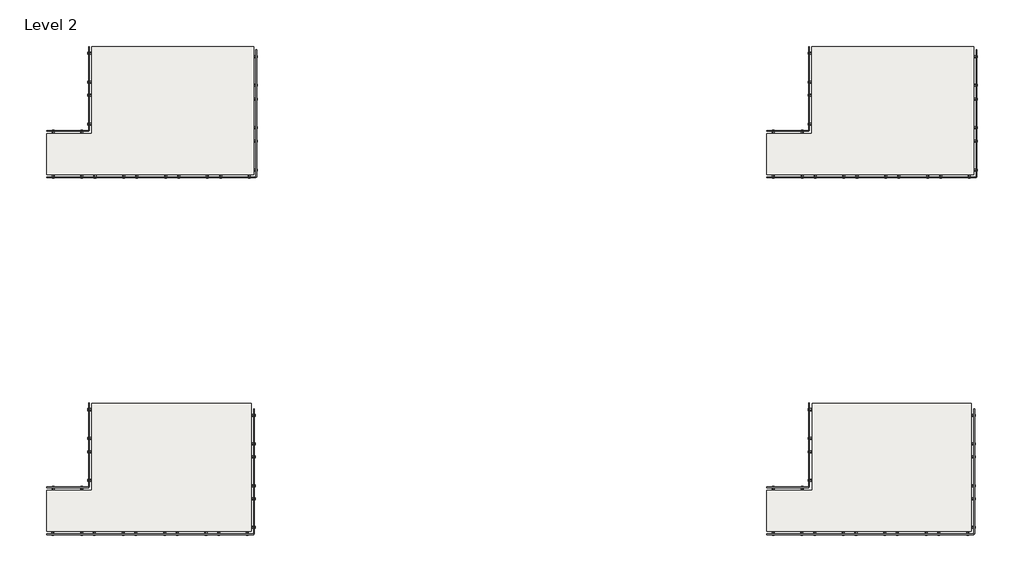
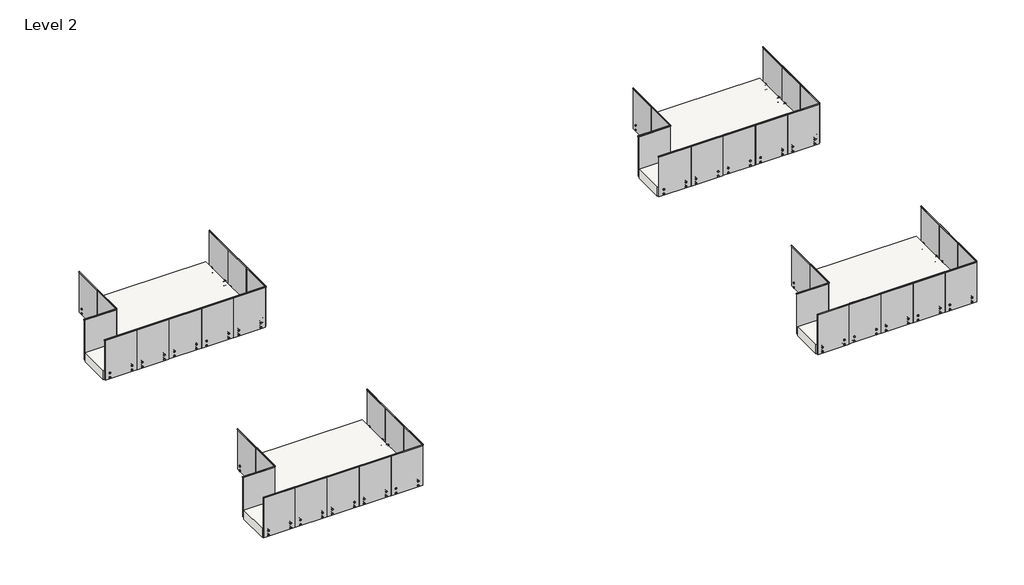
# One storey: 16 railings, 4 slabs.
"""IFC4 building model written with IfcOpenShell, lengths in millimetres."""

from ifc_helpers import new_model, si_unit, frame, origin, place, context, project, spatial, polyline, outline, extrude, transform, mapped, element, save
from components import glass_panels_viva_view_fascia_plate_straight_cd737d56, glass_panels_viva_view_fascia_plate_straight_28301afe, glass_panels_viva_view_fascia_plate_straight_fb124eda, glass_panels_viva_view_fascia_plate_straight_46a01e7d, glass_panels_viva_view_fascia_plate_straight_1b2cf416, glass_panels_viva_view_fascia_plate_straight_96c94eb8, glass_panels_viva_view_fascia_plate_straight_9ccb37f8, glass_panels_viva_view_fascia_plate_straight_29b8bf0f, glass_panels_viva_view_fascia_plate_straight_4b569ee7, glass_panels_viva_view_fascia_plate_straight_a56d03df, glass_panels_viva_view_fascia_straight_a3fbb2b1, glass_panels_viva_view_fascia_straight_cd74b2d6, glass_panels_viva_view_fascia_straight_2bf10b43, glass_panels_viva_view_fascia_straight_26263650, glass_panels_viva_view_fascia_straight_b6d9fe15, glass_panels_viva_view_fascia_straight_ef88a36e, glass_panels_viva_view_fascia_straight_90ccb595, glass_panels_viva_view_fascia_straight_26923121, glass_panels_viva_view_fascia_straight_22dfb696, glass_panels_viva_view_fascia_straight_721f6f93

model = new_model("IFC4")

# Units and contexts
model_context = context("Model", 3, world=origin())
ifc_project = project(units=[si_unit("LENGTHUNIT", "METRE", prefix="MILLI")], contexts=[model_context])

# Site, building, storey
site = spatial("IfcSite", under=ifc_project)
building = spatial("IfcBuilding", under=site)
storey = spatial("IfcBuildingStorey", under=building, Name="Level 2", Elevation=3048.0)

# Railings
placement = place(None, origin())
glass_panels_viva_view_fascia_plate_straight_shape = glass_panels_viva_view_fascia_plate_straight_cd737d56(model_context)
glass_panels_viva_view_fascia_plate_straight_2_shape = glass_panels_viva_view_fascia_plate_straight_28301afe(model_context)
element("IfcRailing", 1, ObjectType="Glass Panels-VIVA-VIEW-Fascia-Plate-Straight", at=placement, inside=storey, context=model_context, shape_type="MappedRepresentation", body=[
    mapped(glass_panels_viva_view_fascia_plate_straight_shape, transform((0.0, 0.0, 0.0), x_axis=(1.0, 0.0, 0.0), y_axis=(0.0, 1.0, 0.0), z_axis=(0.0, 0.0, 1.0))),
    mapped(glass_panels_viva_view_fascia_plate_straight_2_shape, transform((0.0, 0.0, 0.0), x_axis=(1.0, 0.0, 0.0), y_axis=(0.0, 1.0, 0.0), z_axis=(0.0, 0.0, 1.0))),
])
glass_panels_viva_view_fascia_plate_straight_3_shape = glass_panels_viva_view_fascia_plate_straight_fb124eda(model_context)
element("IfcRailing", 2, ObjectType="Glass Panels-VIVA-VIEW-Fascia-Plate-Straight", at=placement, inside=storey, context=model_context, shape_type="MappedRepresentation", body=[
    mapped(glass_panels_viva_view_fascia_plate_straight_3_shape, transform((0.0, 0.0, 0.0), x_axis=(1.0, 0.0, 0.0), y_axis=(0.0, 1.0, 0.0), z_axis=(0.0, 0.0, 1.0))),
])
glass_panels_viva_view_fascia_plate_straight_4_shape = glass_panels_viva_view_fascia_plate_straight_46a01e7d(model_context)
element("IfcRailing", 3, ObjectType="Glass Panels-VIVA-VIEW-Fascia-Plate-Straight", at=placement, inside=storey, context=model_context, shape_type="MappedRepresentation", body=[
    mapped(glass_panels_viva_view_fascia_plate_straight_4_shape, transform((0.0, 0.0, 0.0), x_axis=(1.0, 0.0, 0.0), y_axis=(0.0, 1.0, 0.0), z_axis=(0.0, 0.0, 1.0))),
])
glass_panels_viva_view_fascia_plate_straight_5_shape = glass_panels_viva_view_fascia_plate_straight_1b2cf416(model_context)
element("IfcRailing", 4, ObjectType="Glass Panels-VIVA-VIEW-Fascia-Plate-Straight", at=placement, inside=storey, context=model_context, shape_type="MappedRepresentation", body=[
    mapped(glass_panels_viva_view_fascia_plate_straight_5_shape, transform((0.0, 0.0, 0.0), x_axis=(1.0, 0.0, 0.0), y_axis=(0.0, 1.0, 0.0), z_axis=(0.0, 0.0, 1.0))),
])
glass_panels_viva_view_fascia_plate_straight_6_shape = glass_panels_viva_view_fascia_plate_straight_96c94eb8(model_context)
glass_panels_viva_view_fascia_plate_straight_7_shape = glass_panels_viva_view_fascia_plate_straight_9ccb37f8(model_context)
element("IfcRailing", 5, ObjectType="Glass Panels-VIVA-VIEW-Fascia-Plate-Straight", at=placement, inside=storey, context=model_context, shape_type="MappedRepresentation", body=[
    mapped(glass_panels_viva_view_fascia_plate_straight_6_shape, transform((0.0, 0.0, 0.0), x_axis=(1.0, 0.0, 0.0), y_axis=(0.0, 1.0, 0.0), z_axis=(0.0, 0.0, 1.0))),
    mapped(glass_panels_viva_view_fascia_plate_straight_7_shape, transform((0.0, 0.0, 0.0), x_axis=(1.0, 0.0, 0.0), y_axis=(0.0, 1.0, 0.0), z_axis=(0.0, 0.0, 1.0))),
])
glass_panels_viva_view_fascia_plate_straight_8_shape = glass_panels_viva_view_fascia_plate_straight_29b8bf0f(model_context)
element("IfcRailing", 6, ObjectType="Glass Panels-VIVA-VIEW-Fascia-Plate-Straight", at=placement, inside=storey, context=model_context, shape_type="MappedRepresentation", body=[
    mapped(glass_panels_viva_view_fascia_plate_straight_8_shape, transform((0.0, 0.0, 0.0), x_axis=(1.0, 0.0, 0.0), y_axis=(0.0, 1.0, 0.0), z_axis=(0.0, 0.0, 1.0))),
])
glass_panels_viva_view_fascia_plate_straight_9_shape = glass_panels_viva_view_fascia_plate_straight_4b569ee7(model_context)
element("IfcRailing", 7, ObjectType="Glass Panels-VIVA-VIEW-Fascia-Plate-Straight", at=placement, inside=storey, context=model_context, shape_type="MappedRepresentation", body=[
    mapped(glass_panels_viva_view_fascia_plate_straight_9_shape, transform((0.0, 0.0, 0.0), x_axis=(1.0, 0.0, 0.0), y_axis=(0.0, 1.0, 0.0), z_axis=(0.0, 0.0, 1.0))),
])
glass_panels_viva_view_fascia_plate_straight_10_shape = glass_panels_viva_view_fascia_plate_straight_a56d03df(model_context)
element("IfcRailing", 8, ObjectType="Glass Panels-VIVA-VIEW-Fascia-Plate-Straight", at=placement, inside=storey, context=model_context, shape_type="MappedRepresentation", body=[
    mapped(glass_panels_viva_view_fascia_plate_straight_10_shape, transform((0.0, 0.0, 0.0), x_axis=(1.0, 0.0, 0.0), y_axis=(0.0, 1.0, 0.0), z_axis=(0.0, 0.0, 1.0))),
])
glass_panels_viva_view_fascia_straight_shape = glass_panels_viva_view_fascia_straight_a3fbb2b1(model_context)
glass_panels_viva_view_fascia_straight_2_shape = glass_panels_viva_view_fascia_straight_cd74b2d6(model_context)
element("IfcRailing", 9, ObjectType="Glass Panels-VIVA-VIEW-Fascia-Straight", at=placement, inside=storey, context=model_context, shape_type="MappedRepresentation", body=[
    mapped(glass_panels_viva_view_fascia_straight_shape, transform((0.0, 0.0, 0.0), x_axis=(1.0, 0.0, 0.0), y_axis=(0.0, 1.0, 0.0), z_axis=(0.0, 0.0, 1.0))),
    mapped(glass_panels_viva_view_fascia_straight_2_shape, transform((0.0, 0.0, 0.0), x_axis=(1.0, 0.0, 0.0), y_axis=(0.0, 1.0, 0.0), z_axis=(0.0, 0.0, 1.0))),
])
glass_panels_viva_view_fascia_straight_3_shape = glass_panels_viva_view_fascia_straight_2bf10b43(model_context)
element("IfcRailing", 10, ObjectType="Glass Panels-VIVA-VIEW-Fascia-Straight", at=placement, inside=storey, context=model_context, shape_type="MappedRepresentation", body=[
    mapped(glass_panels_viva_view_fascia_straight_3_shape, transform((0.0, 0.0, 0.0), x_axis=(1.0, 0.0, 0.0), y_axis=(0.0, 1.0, 0.0), z_axis=(0.0, 0.0, 1.0))),
])
glass_panels_viva_view_fascia_straight_4_shape = glass_panels_viva_view_fascia_straight_26263650(model_context)
element("IfcRailing", 11, ObjectType="Glass Panels-VIVA-VIEW-Fascia-Straight", at=placement, inside=storey, context=model_context, shape_type="MappedRepresentation", body=[
    mapped(glass_panels_viva_view_fascia_straight_4_shape, transform((0.0, 0.0, 0.0), x_axis=(1.0, 0.0, 0.0), y_axis=(0.0, 1.0, 0.0), z_axis=(0.0, 0.0, 1.0))),
])
glass_panels_viva_view_fascia_straight_5_shape = glass_panels_viva_view_fascia_straight_b6d9fe15(model_context)
element("IfcRailing", 12, ObjectType="Glass Panels-VIVA-VIEW-Fascia-Straight", at=placement, inside=storey, context=model_context, shape_type="MappedRepresentation", body=[
    mapped(glass_panels_viva_view_fascia_straight_5_shape, transform((0.0, 0.0, 0.0), x_axis=(1.0, 0.0, 0.0), y_axis=(0.0, 1.0, 0.0), z_axis=(0.0, 0.0, 1.0))),
])
glass_panels_viva_view_fascia_straight_6_shape = glass_panels_viva_view_fascia_straight_ef88a36e(model_context)
glass_panels_viva_view_fascia_straight_7_shape = glass_panels_viva_view_fascia_straight_90ccb595(model_context)
element("IfcRailing", 13, ObjectType="Glass Panels-VIVA-VIEW-Fascia-Straight", at=placement, inside=storey, context=model_context, shape_type="MappedRepresentation", body=[
    mapped(glass_panels_viva_view_fascia_straight_6_shape, transform((0.0, 0.0, 0.0), x_axis=(1.0, 0.0, 0.0), y_axis=(0.0, 1.0, 0.0), z_axis=(0.0, 0.0, 1.0))),
    mapped(glass_panels_viva_view_fascia_straight_7_shape, transform((0.0, 0.0, 0.0), x_axis=(1.0, 0.0, 0.0), y_axis=(0.0, 1.0, 0.0), z_axis=(0.0, 0.0, 1.0))),
])
glass_panels_viva_view_fascia_straight_8_shape = glass_panels_viva_view_fascia_straight_26923121(model_context)
element("IfcRailing", 14, ObjectType="Glass Panels-VIVA-VIEW-Fascia-Straight", at=placement, inside=storey, context=model_context, shape_type="MappedRepresentation", body=[
    mapped(glass_panels_viva_view_fascia_straight_8_shape, transform((0.0, 0.0, 0.0), x_axis=(1.0, 0.0, 0.0), y_axis=(0.0, 1.0, 0.0), z_axis=(0.0, 0.0, 1.0))),
])
glass_panels_viva_view_fascia_straight_9_shape = glass_panels_viva_view_fascia_straight_22dfb696(model_context)
element("IfcRailing", 15, ObjectType="Glass Panels-VIVA-VIEW-Fascia-Straight", at=placement, inside=storey, context=model_context, shape_type="MappedRepresentation", body=[
    mapped(glass_panels_viva_view_fascia_straight_9_shape, transform((0.0, 0.0, 0.0), x_axis=(1.0, 0.0, 0.0), y_axis=(0.0, 1.0, 0.0), z_axis=(0.0, 0.0, 1.0))),
])
glass_panels_viva_view_fascia_straight_10_shape = glass_panels_viva_view_fascia_straight_721f6f93(model_context)
element("IfcRailing", 16, ObjectType="Glass Panels-VIVA-VIEW-Fascia-Straight", at=placement, inside=storey, context=model_context, shape_type="MappedRepresentation", body=[
    mapped(glass_panels_viva_view_fascia_straight_10_shape, transform((0.0, 0.0, 0.0), x_axis=(1.0, 0.0, 0.0), y_axis=(0.0, 1.0, 0.0), z_axis=(0.0, 0.0, 1.0))),
])

# Slabs
element("IfcSlab", 17, ObjectType="Generic - 12\"", at=placement, inside=storey, context=model_context, shape_type="SweptSolid", body=[
    extrude(outline(polyline([(19925.5266433, -1517.0469585), (21038.7613122, -1517.0469585), (21038.7613122, 641.9530415), (25055.7857113, 641.9530415), (25055.7857113, -2533.0469585), (19925.5266433, -2533.0469585), (19925.5266433, -1517.0469585)])), frame((0.0, 0.0, 2743.2), z_axis=(0.0, 0.0, 1.0), x_axis=(1.0, 0.0, 0.0)), (0.0, 0.0, 1.0), 304.8),
])
element("IfcSlab", 18, ObjectType="Generic - 12\"", at=placement, inside=storey, context=model_context, shape_type="SweptSolid", body=[
    extrude(outline(polyline([(19925.5266433, -10356.2469585), (21047.8894372, -10356.2469585), (21047.8894372, -8197.2469585), (24991.2388494, -8197.2469585), (24991.2388494, -11372.2469585), (19925.5266433, -11372.2469585), (19925.5266433, -10356.2469585)])), frame((0.0, 0.0, 2743.2), z_axis=(0.0, 0.0, 1.0), x_axis=(1.0, 0.0, 0.0)), (0.0, 0.0, 1.0), 304.8),
])
element("IfcSlab", 19, ObjectType="Generic - 12\"", at=placement, inside=storey, context=model_context, shape_type="SweptSolid", body=[
    extrude(outline(polyline([(37756.3266433, -1517.0469585), (38869.5613122, -1517.0469585), (38869.5613122, 641.9530415), (42886.5857113, 641.9530415), (42886.5857113, -2533.0469585), (37756.3266433, -2533.0469585), (37756.3266433, -1517.0469585)])), frame((0.0, 0.0, 2743.2), z_axis=(0.0, 0.0, 1.0), x_axis=(1.0, 0.0, 0.0)), (0.0, 0.0, 1.0), 304.8),
])
element("IfcSlab", 20, ObjectType="Generic - 12\"", at=placement, inside=storey, context=model_context, shape_type="SweptSolid", body=[
    extrude(outline(polyline([(37756.3266433, -10356.2469585), (38878.6894372, -10356.2469585), (38878.6894372, -8197.2469585), (42822.0388494, -8197.2469585), (42822.0388494, -11372.2469585), (37756.3266433, -11372.2469585), (37756.3266433, -10356.2469585)])), frame((0.0, 0.0, 2743.2), z_axis=(0.0, 0.0, 1.0), x_axis=(1.0, 0.0, 0.0)), (0.0, 0.0, 1.0), 304.8),
])

save(model, "model.ifc")
